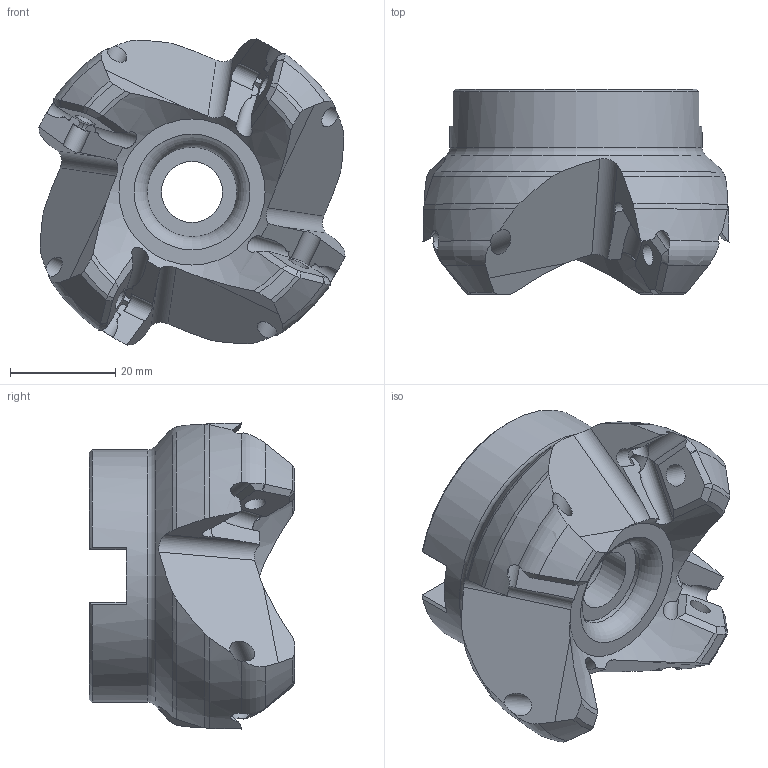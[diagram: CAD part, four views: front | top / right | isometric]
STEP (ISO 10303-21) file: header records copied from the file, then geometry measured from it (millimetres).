
FILE_DESCRIPTION(/* description */ (''),/* implementation_level */ '2;1');
FILE_NAME(/* name */ 'Z:\Проектный отдел\Влад\Фрезы\WMGC45-D50-22-4T.stp',/* time_stamp */ '2023-03-21T11:42:49+03:00',/* author */ ('инженер'),/* organization */ (''),/* preprocessor_version */ 'ST-DEVELOPER v18',/* originating_system */ 'Autodesk Inventor 2020',/* authorisation */ '');
FILE_SCHEMA (('AUTOMOTIVE_DESIGN { 1 0 10303 214 3 1 1 }'));
Length unit declared in the file: millimetre
Products named in the file (1): WMGC45-D50-22-4T
Bounding box: 58.16 x 39 x 58.16 mm (x, y, z)
Volume: 54298.5 mm3; surface area: 13516.4 mm2
Topology: 1 solids, 1 shells, 169 faces, 514 edges, 344 vertices
Faces by surface type: plane 67, cone 35, cylinder 32, bspline 24, torus 11
Full cylindrical faces by diameter (mm): 4.2 x4, 11.6 x1, 17 x1, 22 x1, 48 x1
Entity records: 6706 total; most frequent: CARTESIAN_POINT 2434, ORIENTED_EDGE 1028, DIRECTION 760, EDGE_CURVE 514, VERTEX_POINT 344, AXIS2_PLACEMENT_3D 309, EDGE_LOOP 176, FACE_OUTER_BOUND 169
